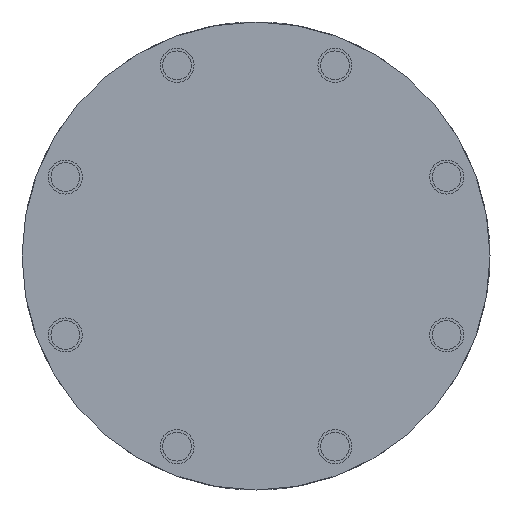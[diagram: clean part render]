
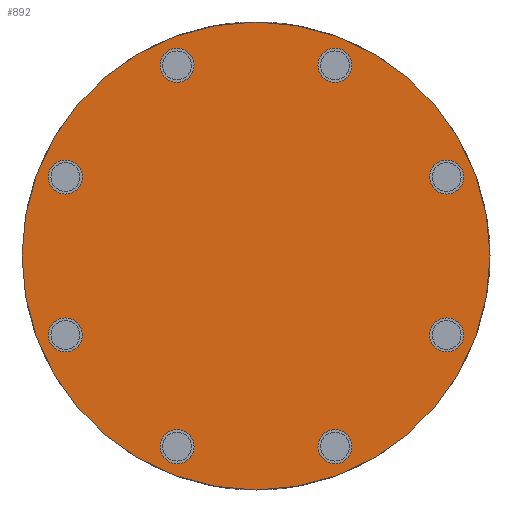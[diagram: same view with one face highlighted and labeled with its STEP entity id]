
A CAD part, front view. The second image highlights one B-rep face of the part: STEP entity #892.
In plain terms, the highlighted planar face has unit normal (0, -1, 0).
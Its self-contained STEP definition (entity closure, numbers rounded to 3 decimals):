
#347=CARTESIAN_POINT('',(-0.0,0.0,55.0));
#348=VERTEX_POINT('',#347);
#355=CARTESIAN_POINT('',(0.0,0.0,-55.0));
#356=VERTEX_POINT('',#355);
#357=CARTESIAN_POINT('',(0.0,0.0,0.0));
#358=DIRECTION('',(-0.0,1.0,0.0));
#359=DIRECTION('',(0.0,0.0,-1.0));
#360=AXIS2_PLACEMENT_3D('',#357,#358,#359);
#361=CIRCLE('',#360,55.0);
#362=EDGE_CURVE('no 1428',#348,#356,#361,.T.);
#663=CARTESIAN_POINT('',(-44.808,-0.0,-22.56));
#664=VERTEX_POINT('',#663);
#665=CARTESIAN_POINT('',(-41.98,-0.0,-15.732));
#666=VERTEX_POINT('',#665);
#667=CARTESIAN_POINT('',(-44.808,-0.0,-18.56));
#668=DIRECTION('',(0.0,-1.0,-0.0));
#669=DIRECTION('',(0.707,0.0,0.707));
#670=AXIS2_PLACEMENT_3D('',#667,#668,#669);
#671=CIRCLE('',#670,4.0);
#672=EDGE_CURVE('no 1532',#664,#666,#671,.T.);
#673=ORIENTED_EDGE('',*,*,#672,.F.);
#674=CARTESIAN_POINT('',(-44.808,-0.0,-14.56));
#675=VERTEX_POINT('',#674);
#676=CARTESIAN_POINT('',(-44.808,-0.0,-18.56));
#677=DIRECTION('',(0.0,-1.0,-0.0));
#678=DIRECTION('',(0.707,0.0,0.707));
#679=AXIS2_PLACEMENT_3D('',#676,#677,#678);
#680=CIRCLE('',#679,4.0);
#681=EDGE_CURVE('no 1538',#675,#664,#680,.T.);
#682=ORIENTED_EDGE('',*,*,#681,.F.);
#683=CARTESIAN_POINT('',(-44.808,-0.0,-18.56));
#684=DIRECTION('',(0.0,-1.0,-0.0));
#685=DIRECTION('',(0.707,0.0,0.707));
#686=AXIS2_PLACEMENT_3D('',#683,#684,#685);
#687=CIRCLE('',#686,4.0);
#688=EDGE_CURVE('no 1542',#666,#675,#687,.T.);
#689=ORIENTED_EDGE('',*,*,#688,.F.);
#690=EDGE_LOOP('',(#673,#682,#689));
#691=FACE_BOUND('',#690,.T.);
#692=CARTESIAN_POINT('',(-44.808,-0.0,14.56));
#693=VERTEX_POINT('',#692);
#694=CARTESIAN_POINT('',(-40.808,-0.0,18.56));
#695=VERTEX_POINT('',#694);
#696=CARTESIAN_POINT('',(-44.808,-0.0,18.56));
#697=DIRECTION('',(0.0,-1.0,-0.0));
#698=DIRECTION('',(1.0,0.0,0.0));
#699=AXIS2_PLACEMENT_3D('',#696,#697,#698);
#700=CIRCLE('',#699,4.0);
#701=EDGE_CURVE('no 1551',#693,#695,#700,.T.);
#702=ORIENTED_EDGE('',*,*,#701,.F.);
#703=CARTESIAN_POINT('',(-44.808,-0.0,22.56));
#704=VERTEX_POINT('',#703);
#705=CARTESIAN_POINT('',(-44.808,-0.0,18.56));
#706=DIRECTION('',(0.0,-1.0,-0.0));
#707=DIRECTION('',(1.0,0.0,0.0));
#708=AXIS2_PLACEMENT_3D('',#705,#706,#707);
#709=CIRCLE('',#708,4.0);
#710=EDGE_CURVE('no 1557',#704,#693,#709,.T.);
#711=ORIENTED_EDGE('',*,*,#710,.F.);
#712=CARTESIAN_POINT('',(-44.808,-0.0,18.56));
#713=DIRECTION('',(0.0,-1.0,-0.0));
#714=DIRECTION('',(1.0,0.0,0.0));
#715=AXIS2_PLACEMENT_3D('',#712,#713,#714);
#716=CIRCLE('',#715,4.0);
#717=EDGE_CURVE('no 1561',#695,#704,#716,.T.);
#718=ORIENTED_EDGE('',*,*,#717,.F.);
#719=EDGE_LOOP('',(#702,#711,#718));
#720=FACE_BOUND('',#719,.T.);
#721=CARTESIAN_POINT('',(-18.56,-0.0,40.808));
#722=VERTEX_POINT('',#721);
#723=CARTESIAN_POINT('',(-15.732,-0.0,41.98));
#724=VERTEX_POINT('',#723);
#725=CARTESIAN_POINT('',(-18.56,-0.0,44.808));
#726=DIRECTION('',(0.0,-1.0,0.0));
#727=DIRECTION('',(0.707,0.0,-0.707));
#728=AXIS2_PLACEMENT_3D('',#725,#726,#727);
#729=CIRCLE('',#728,4.0);
#730=EDGE_CURVE('no 1570',#722,#724,#729,.T.);
#731=ORIENTED_EDGE('',*,*,#730,.F.);
#732=CARTESIAN_POINT('',(-18.56,-0.0,48.808));
#733=VERTEX_POINT('',#732);
#734=CARTESIAN_POINT('',(-18.56,-0.0,44.808));
#735=DIRECTION('',(0.0,-1.0,0.0));
#736=DIRECTION('',(0.707,0.0,-0.707));
#737=AXIS2_PLACEMENT_3D('',#734,#735,#736);
#738=CIRCLE('',#737,4.0);
#739=EDGE_CURVE('no 1576',#733,#722,#738,.T.);
#740=ORIENTED_EDGE('',*,*,#739,.F.);
#741=CARTESIAN_POINT('',(-18.56,-0.0,44.808));
#742=DIRECTION('',(0.0,-1.0,0.0));
#743=DIRECTION('',(0.707,0.0,-0.707));
#744=AXIS2_PLACEMENT_3D('',#741,#742,#743);
#745=CIRCLE('',#744,4.0);
#746=EDGE_CURVE('no 1580',#724,#733,#745,.T.);
#747=ORIENTED_EDGE('',*,*,#746,.F.);
#748=EDGE_LOOP('',(#731,#740,#747));
#749=FACE_BOUND('',#748,.T.);
#750=CARTESIAN_POINT('',(18.56,0.0,48.808));
#751=VERTEX_POINT('',#750);
#752=CARTESIAN_POINT('',(18.56,0.0,40.808));
#753=VERTEX_POINT('',#752);
#754=CARTESIAN_POINT('',(18.56,0.0,44.808));
#755=DIRECTION('',(0.0,-1.0,0.0));
#756=DIRECTION('',(0.0,0.0,-1.0));
#757=AXIS2_PLACEMENT_3D('',#754,#755,#756);
#758=CIRCLE('',#757,4.0);
#759=EDGE_CURVE('no 1589',#751,#753,#758,.T.);
#760=ORIENTED_EDGE('',*,*,#759,.F.);
#761=CARTESIAN_POINT('',(18.56,0.0,44.808));
#762=DIRECTION('',(0.0,-1.0,0.0));
#763=DIRECTION('',(0.0,0.0,-1.0));
#764=AXIS2_PLACEMENT_3D('',#761,#762,#763);
#765=CIRCLE('',#764,4.0);
#766=EDGE_CURVE('no 1593',#753,#751,#765,.T.);
#767=ORIENTED_EDGE('',*,*,#766,.F.);
#768=EDGE_LOOP('',(#760,#767));
#769=FACE_BOUND('',#768,.T.);
#770=CARTESIAN_POINT('',(44.808,0.0,22.56));
#771=VERTEX_POINT('',#770);
#772=CARTESIAN_POINT('',(41.98,0.0,15.732));
#773=VERTEX_POINT('',#772);
#774=CARTESIAN_POINT('',(44.808,0.0,18.56));
#775=DIRECTION('',(0.0,-1.0,-0.0));
#776=DIRECTION('',(-0.707,-0.0,-0.707));
#777=AXIS2_PLACEMENT_3D('',#774,#775,#776);
#778=CIRCLE('',#777,4.0);
#779=EDGE_CURVE('no 1602',#771,#773,#778,.T.);
#780=ORIENTED_EDGE('',*,*,#779,.F.);
#781=CARTESIAN_POINT('',(44.808,0.0,14.56));
#782=VERTEX_POINT('',#781);
#783=CARTESIAN_POINT('',(44.808,0.0,18.56));
#784=DIRECTION('',(0.0,-1.0,-0.0));
#785=DIRECTION('',(-0.707,-0.0,-0.707));
#786=AXIS2_PLACEMENT_3D('',#783,#784,#785);
#787=CIRCLE('',#786,4.0);
#788=EDGE_CURVE('no 1608',#782,#771,#787,.T.);
#789=ORIENTED_EDGE('',*,*,#788,.F.);
#790=CARTESIAN_POINT('',(44.808,0.0,18.56));
#791=DIRECTION('',(0.0,-1.0,-0.0));
#792=DIRECTION('',(-0.707,-0.0,-0.707));
#793=AXIS2_PLACEMENT_3D('',#790,#791,#792);
#794=CIRCLE('',#793,4.0);
#795=EDGE_CURVE('no 1612',#773,#782,#794,.T.);
#796=ORIENTED_EDGE('',*,*,#795,.F.);
#797=EDGE_LOOP('',(#780,#789,#796));
#798=FACE_BOUND('',#797,.T.);
#799=CARTESIAN_POINT('',(44.808,0.0,-14.56));
#800=VERTEX_POINT('',#799);
#801=CARTESIAN_POINT('',(40.808,0.0,-18.56));
#802=VERTEX_POINT('',#801);
#803=CARTESIAN_POINT('',(44.808,0.0,-18.56));
#804=DIRECTION('',(0.0,-1.0,-0.0));
#805=DIRECTION('',(-1.0,-0.0,-0.0));
#806=AXIS2_PLACEMENT_3D('',#803,#804,#805);
#807=CIRCLE('',#806,4.0);
#808=EDGE_CURVE('no 1621',#800,#802,#807,.T.);
#809=ORIENTED_EDGE('',*,*,#808,.F.);
#810=CARTESIAN_POINT('',(44.808,0.0,-22.56));
#811=VERTEX_POINT('',#810);
#812=CARTESIAN_POINT('',(44.808,0.0,-18.56));
#813=DIRECTION('',(0.0,-1.0,-0.0));
#814=DIRECTION('',(-1.0,-0.0,-0.0));
#815=AXIS2_PLACEMENT_3D('',#812,#813,#814);
#816=CIRCLE('',#815,4.0);
#817=EDGE_CURVE('no 1627',#811,#800,#816,.T.);
#818=ORIENTED_EDGE('',*,*,#817,.F.);
#819=CARTESIAN_POINT('',(44.808,0.0,-18.56));
#820=DIRECTION('',(0.0,-1.0,-0.0));
#821=DIRECTION('',(-1.0,-0.0,-0.0));
#822=AXIS2_PLACEMENT_3D('',#819,#820,#821);
#823=CIRCLE('',#822,4.0);
#824=EDGE_CURVE('no 1631',#802,#811,#823,.T.);
#825=ORIENTED_EDGE('',*,*,#824,.F.);
#826=EDGE_LOOP('',(#809,#818,#825));
#827=FACE_BOUND('',#826,.T.);
#828=CARTESIAN_POINT('',(18.56,0.0,-40.808));
#829=VERTEX_POINT('',#828);
#830=CARTESIAN_POINT('',(15.732,0.0,-41.98));
#831=VERTEX_POINT('',#830);
#832=CARTESIAN_POINT('',(18.56,0.0,-44.808));
#833=DIRECTION('',(0.0,-1.0,0.0));
#834=DIRECTION('',(-0.707,-0.0,0.707));
#835=AXIS2_PLACEMENT_3D('',#832,#833,#834);
#836=CIRCLE('',#835,4.0);
#837=EDGE_CURVE('no 1640',#829,#831,#836,.T.);
#838=ORIENTED_EDGE('',*,*,#837,.F.);
#839=CARTESIAN_POINT('',(18.56,0.0,-48.808));
#840=VERTEX_POINT('',#839);
#841=CARTESIAN_POINT('',(18.56,0.0,-44.808));
#842=DIRECTION('',(0.0,-1.0,0.0));
#843=DIRECTION('',(-0.707,-0.0,0.707));
#844=AXIS2_PLACEMENT_3D('',#841,#842,#843);
#845=CIRCLE('',#844,4.0);
#846=EDGE_CURVE('no 1646',#840,#829,#845,.T.);
#847=ORIENTED_EDGE('',*,*,#846,.F.);
#848=CARTESIAN_POINT('',(18.56,0.0,-44.808));
#849=DIRECTION('',(0.0,-1.0,0.0));
#850=DIRECTION('',(-0.707,-0.0,0.707));
#851=AXIS2_PLACEMENT_3D('',#848,#849,#850);
#852=CIRCLE('',#851,4.0);
#853=EDGE_CURVE('no 1650',#831,#840,#852,.T.);
#854=ORIENTED_EDGE('',*,*,#853,.F.);
#855=EDGE_LOOP('',(#838,#847,#854));
#856=FACE_BOUND('',#855,.T.);
#857=CARTESIAN_POINT('',(-18.56,-0.0,-48.808));
#858=VERTEX_POINT('',#857);
#859=CARTESIAN_POINT('',(-18.56,-0.0,-40.808));
#860=VERTEX_POINT('',#859);
#861=CARTESIAN_POINT('',(-18.56,-0.0,-44.808));
#862=DIRECTION('',(0.0,-1.0,0.0));
#863=DIRECTION('',(0.0,0.0,1.0));
#864=AXIS2_PLACEMENT_3D('',#861,#862,#863);
#865=CIRCLE('',#864,4.0);
#866=EDGE_CURVE('no 1659',#858,#860,#865,.T.);
#867=ORIENTED_EDGE('',*,*,#866,.F.);
#868=CARTESIAN_POINT('',(-18.56,-0.0,-44.808));
#869=DIRECTION('',(0.0,-1.0,0.0));
#870=DIRECTION('',(0.0,0.0,1.0));
#871=AXIS2_PLACEMENT_3D('',#868,#869,#870);
#872=CIRCLE('',#871,4.0);
#873=EDGE_CURVE('no 1663',#860,#858,#872,.T.);
#874=ORIENTED_EDGE('',*,*,#873,.F.);
#875=EDGE_LOOP('',(#867,#874));
#876=FACE_BOUND('',#875,.T.);
#877=ORIENTED_EDGE('',*,*,#362,.F.);
#878=CARTESIAN_POINT('',(0.0,0.0,0.0));
#879=DIRECTION('',(-0.0,1.0,0.0));
#880=DIRECTION('',(0.0,0.0,-1.0));
#881=AXIS2_PLACEMENT_3D('',#878,#879,#880);
#882=CIRCLE('',#881,55.0);
#883=EDGE_CURVE('no 1670',#356,#348,#882,.T.);
#884=ORIENTED_EDGE('',*,*,#883,.F.);
#885=EDGE_LOOP('',(#877,#884));
#886=FACE_OUTER_BOUND('',#885,.T.);
#887=CARTESIAN_POINT('',(0.0,0.0,0.0));
#888=DIRECTION('',(-0.0,1.0,0.0));
#889=DIRECTION('',(0.0,0.0,-1.0));
#890=AXIS2_PLACEMENT_3D('',#887,#888,#889);
#891=PLANE('',#890);
#892=ADVANCED_FACE('no 1523',(#691,#720,#749,#769,#798,#827,#856,#876,#886),#891,.F.);
